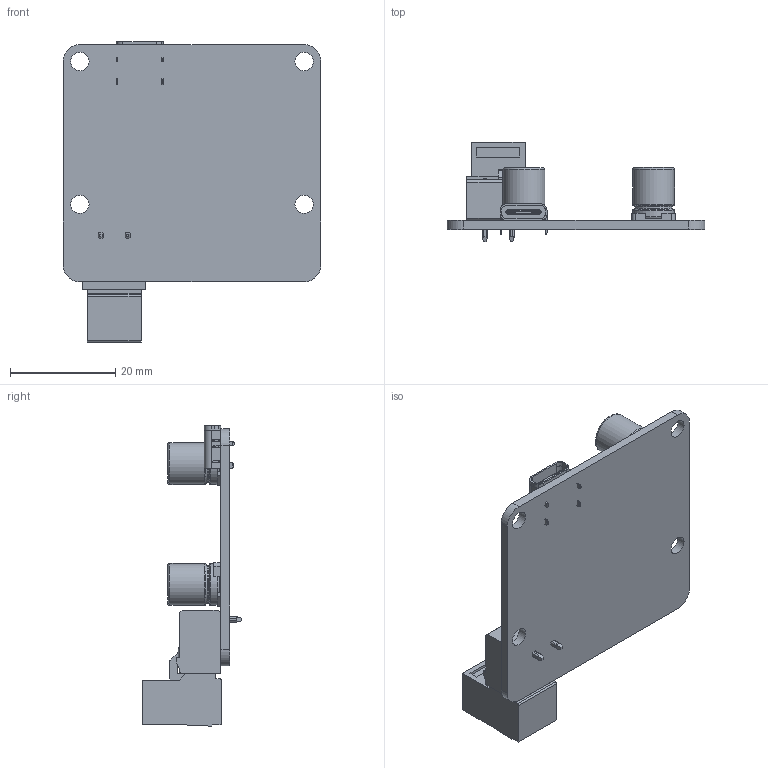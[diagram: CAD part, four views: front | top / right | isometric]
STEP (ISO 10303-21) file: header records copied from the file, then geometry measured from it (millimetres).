
FILE_DESCRIPTION(/* description */ (''),/* implementation_level */ '2;1');
FILE_NAME(/* name */ 'C:/Users/Leo Pinto/Documents/Fusion 360/AA PCBAs/CG-PDC65W-PCBA/CG-PDC65W-PCBA Model 3D Lpv1.step',/* time_stamp */ '2022-07-06T23:04:35-04:00',/* author */ (''),/* organization */ (''),/* preprocessor_version */ 'ST-DEVELOPER v18.1',/* originating_system */ 'Autodesk Translation Framework v10.14.0.1471',/* authorisation */ '');
FILE_SCHEMA (('AUTOMOTIVE_DESIGN { 1 0 10303 214 3 1 1 }'));
Length unit declared in the file: millimetre
Products named in the file (9): CG-PDC65W-PCBA; USB type C mounting pcb; TypeC(12); Connector green Phoenix 2 holes female 5.08; Connector green phoenix 2pines male 5.08 v6; Cilinder tall conden C115CG-43AB1; 8x10.5x3; capicitor_8x10.5x3; 8Capacitor
Assembly tree (9 placements, depth 4):
  CG-PDC65W-PCBA
    USB type C mounting pcb
      TypeC(12)
    Connector green Phoenix 2 holes female 5.08
      Connector green phoenix 2pines male 5.08 v6
    Cilinder tall conden C115CG-43AB1  x2
      8x10.5x3
        capicitor_8x10.5x3
        8Capacitor
Bounding box: 49.03 x 18.93 x 57.12 mm (x, y, z)
Volume: 7039 mm3; surface area: 8618.9 mm2
Topology: 8 solids, 8 shells, 1016 faces, 2722 edges, 1782 vertices
Faces by surface type: plane 721, cylinder 251, torus 18, cone 12, bspline 8, sphere 6
Full cylindrical faces by diameter (mm): 0.5 x2, 1 x14, 1.16 x2, 1.2 x4, 1.6 x2, 1.96 x2, 2.12 x2, 2.92 x2, 3.08 x2, 3.48 x4, 3.86 x2, 5.48 x4, 5.6 x2, 7.12 x2, 8 x4
Entity records: 28907 total; most frequent: CARTESIAN_POINT 5217, ORIENTED_EDGE 4834, DIRECTION 4753, EDGE_CURVE 2417, LINE 1883, VECTOR 1883, VERTEX_POINT 1581, AXIS2_PLACEMENT_3D 1435
